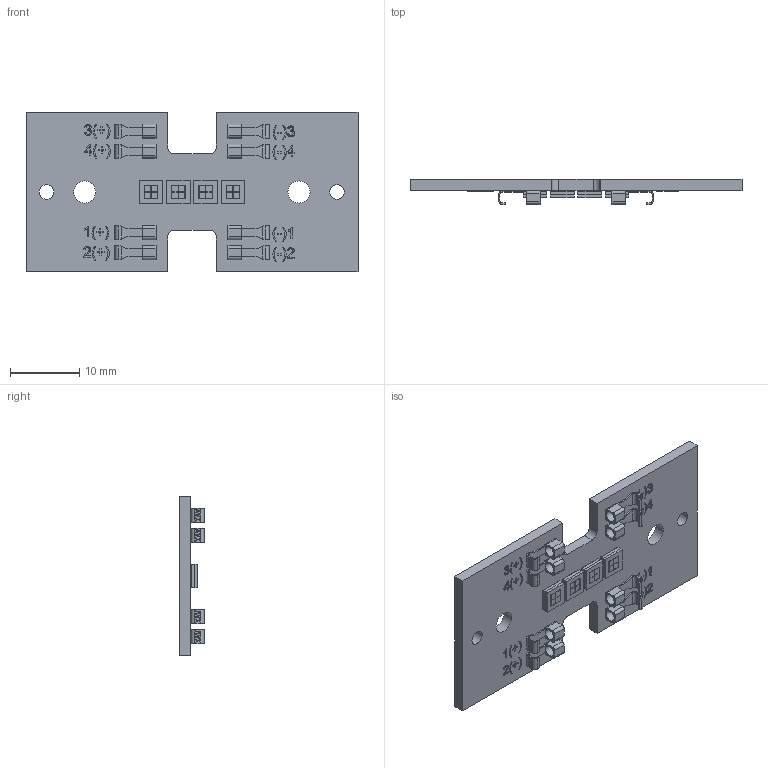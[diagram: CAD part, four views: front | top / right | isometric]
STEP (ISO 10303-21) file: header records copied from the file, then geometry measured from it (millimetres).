
FILE_DESCRIPTION(/* description */ ('Unknown'),/* implementation_level */ '2;1');
FILE_NAME(/* name */ 'RecLED 48x23mm 4xRGBW CORAL-IP sh-000 2026-01-23',/* time_stamp */ '2026-01-23T10:12:56+01:00',/* author */ ('Unknown'),/* organization */ ('Unknown'),/* preprocessor_version */ 'ST-DEVELOPER v18.102',/* originating_system */ 'Solid Edge',/* authorisation */ 'Unknown');
FILE_SCHEMA (('AUTOMOTIVE_DESIGN {1 0 10303 214 3 1 1}'));
Length unit declared in the file: millimetre
Products named in the file (1): RecLED 48x23mm 4xRGBW CORAL-IP sh-000 2026-01-23
Bounding box: 48 x 3.6 x 23 mm (x, y, z)
Volume: 1689.8 mm3; surface area: 2691.8 mm2
Topology: 1 solids, 1 shells, 920 faces, 2520 edges, 1664 vertices
Faces by surface type: plane 792, cylinder 118, bspline 10
Full cylindrical faces by diameter (mm): 1.6 x8, 2.1 x2, 3.2 x2
Entity records: 35582 total; most frequent: CARTESIAN_POINT 6660, ORIENTED_EDGE 4968, DIRECTION 4062, EDGE_CURVE 2484, LINE 1760, VECTOR 1760, VERTEX_POINT 1648, AXIS2_PLACEMENT_3D 1151
